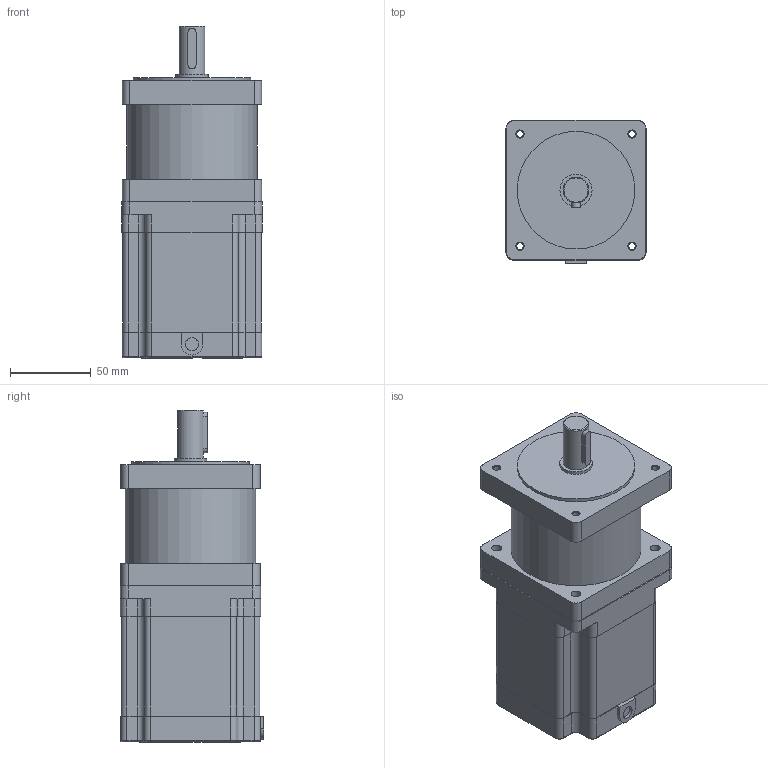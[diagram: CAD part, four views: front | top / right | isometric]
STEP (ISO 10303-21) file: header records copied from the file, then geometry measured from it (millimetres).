
FILE_DESCRIPTION(/* description */ (''),/* implementation_level */ '2;1');
FILE_NAME(/* name */ '\\JOINapp01\Profiles\martins\Desktop\MOTO REDUTORES MP\KTC-KML092-F07-R5.step',/* time_stamp */ '2018-03-29T08:07:33-03:00',/* author */ ('martins'),/* organization */ (''),/* preprocessor_version */ 'ST-DEVELOPER v16.1',/* originating_system */ 'Autodesk Inventor 2016',/* authorisation */ '');
FILE_SCHEMA (('AUTOMOTIVE_DESIGN { 1 0 10303 214 3 1 1 }'));
Length unit declared in the file: millimetre
Products named in the file (1): KTC-KML092-F07-R5
Bounding box: 87 x 88.85 x 206.1 mm (x, y, z)
Volume: 1107676.8 mm3; surface area: 80106.1 mm2
Topology: 1 solids, 2 shells, 489 faces, 1294 edges, 848 vertices
Faces by surface type: plane 271, bspline 106, cylinder 87, torus 16, cone 9
Full cylindrical faces by diameter (mm): 4.134 x4, 5.5 x5, 6.1 x3, 8 x1, 12.7 x2, 16 x1, 20 x1, 35 x1, 73 x1, 81 x1
Entity records: 15829 total; most frequent: CARTESIAN_POINT 4314, ORIENTED_EDGE 2514, DIRECTION 2001, EDGE_CURVE 1257, LINE 853, VECTOR 853, VERTEX_POINT 840, EDGE_LOOP 575
